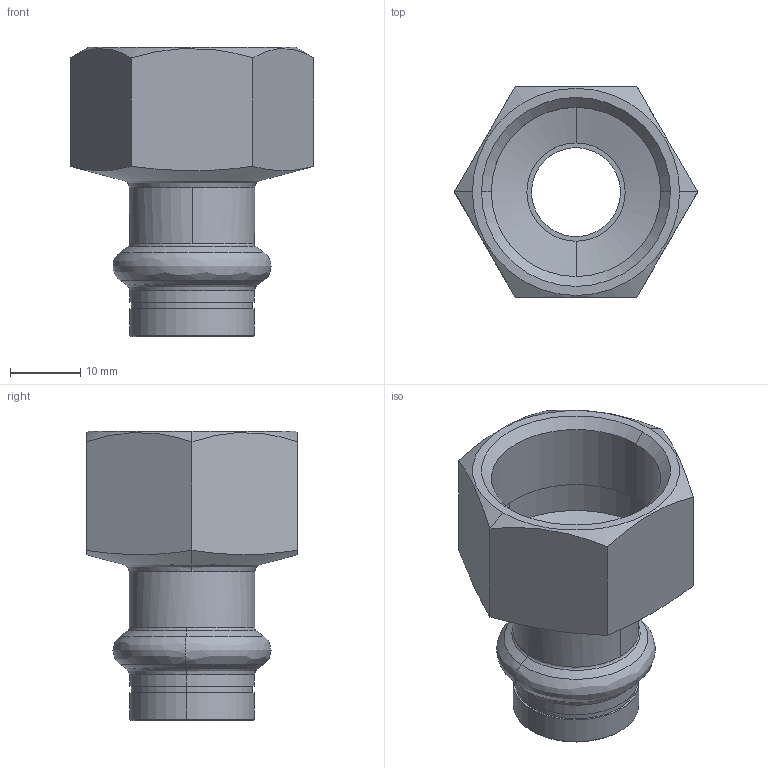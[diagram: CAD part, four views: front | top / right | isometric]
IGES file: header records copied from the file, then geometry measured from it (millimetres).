
Start section: Elysium IGES Interface
Global section: file name: F:\3d modellen sudo\S-Pr VP\SP6270GV\6270GVW1534.igs; native system: CoCreate Modeling 17.00A  17-Jun-2010; preprocessor: CoCreate IGES_3D V2.2; author: Unknown; organization: Unknown; date: 20130128.122734; units: millimetre
Bounding box: 34.64 x 30 x 41.2 mm (x, y, z)
Volume: 7583.8 mm3; surface area: 7055 mm2
Topology: 1 solids, 1 shells, 60 faces, 130 edges, 76 vertices
Faces by surface type: bspline 60
